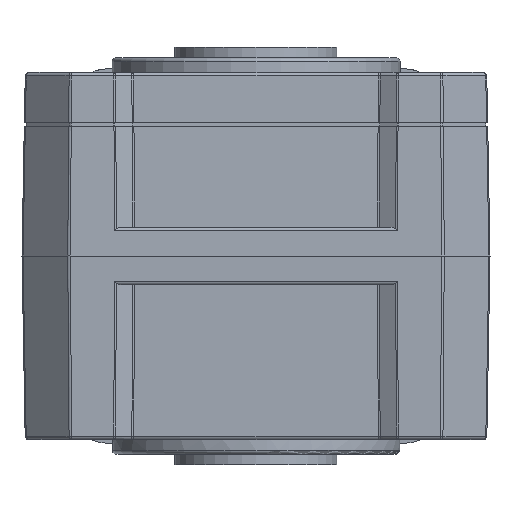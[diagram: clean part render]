
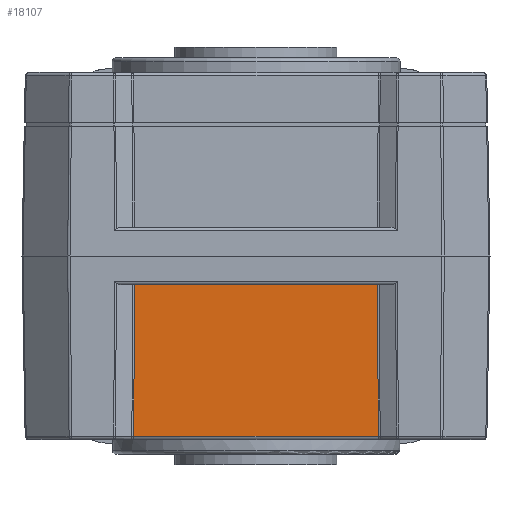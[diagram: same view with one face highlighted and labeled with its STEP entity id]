
A CAD part, left-side view. The second image highlights one B-rep face of the part: STEP entity #18107.
In plain terms, the highlighted planar face has unit normal (-1, 0, -0.018).
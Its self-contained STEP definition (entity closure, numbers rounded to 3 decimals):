
#3810 = AXIS2_PLACEMENT_3D ( 'NONE', #9549, #9550, #9551 ) ;
#5864 = FACE_OUTER_BOUND ( 'NONE', #18685, .T. ) ;
#6097 = LINE ( 'NONE', #10744, #6108 ) ;
#6104 = LINE ( 'NONE', #10748, #6106 ) ;
#6106 = VECTOR ( 'NONE', #10750, 1000. ) ;
#6107 = LINE ( 'NONE', #10752, #6110 ) ;
#6108 = VECTOR ( 'NONE', #10751, 1000. ) ;
#6109 = LINE ( 'NONE', #10754, #6112 ) ;
#6110 = VECTOR ( 'NONE', #10753, 1000. ) ;
#6112 = VECTOR ( 'NONE', #10755, 1000. ) ;
#9547 = PLANE ( 'NONE',  #3810 ) ;
#9549 = CARTESIAN_POINT ( 'NONE',  ( -62., -34., 0. ) ) ;
#9550 = DIRECTION ( 'NONE',  ( -1., 0., -0.017 ) ) ;
#9551 = DIRECTION ( 'NONE',  ( -0.017, 0., 1. ) ) ;
#9999 = CARTESIAN_POINT ( 'NONE',  ( -61.127, -33.965, -50.017 ) ) ;
#10010 = CARTESIAN_POINT ( 'NONE',  ( -61.127, 33.965, -50.017 ) ) ;
#10018 = CARTESIAN_POINT ( 'NONE',  ( -61.86, -33.762, -8. ) ) ;
#10019 = CARTESIAN_POINT ( 'NONE',  ( -61.86, 33.762, -8. ) ) ;
#10744 = CARTESIAN_POINT ( 'NONE',  ( -61.86, -33.762, -8.001 ) ) ;
#10748 = CARTESIAN_POINT ( 'NONE',  ( -61.127, -34.247, -50.017 ) ) ;
#10750 = DIRECTION ( 'NONE',  ( 0., -1., 0. ) ) ;
#10751 = DIRECTION ( 'NONE',  ( -0.017, 0.005, 1. ) ) ;
#10752 = CARTESIAN_POINT ( 'NONE',  ( -61.86, -34., -8. ) ) ;
#10753 = DIRECTION ( 'NONE',  ( 0., 1., 0. ) ) ;
#10754 = CARTESIAN_POINT ( 'NONE',  ( -61.127, 33.965, -50.019 ) ) ;
#10755 = DIRECTION ( 'NONE',  ( 0.017, 0.005, -1. ) ) ;
#18107 = ADVANCED_FACE ( 'NONE', ( #5864 ), #9547, .T. ) ;
#18386 = VERTEX_POINT ( 'NONE', #9999 ) ;
#18397 = VERTEX_POINT ( 'NONE', #10010 ) ;
#18405 = VERTEX_POINT ( 'NONE', #10018 ) ;
#18406 = VERTEX_POINT ( 'NONE', #10019 ) ;
#18685 = EDGE_LOOP ( 'NONE', ( #21006, #21009, #21011, #21013 ) ) ;
#19468 = EDGE_CURVE ( 'NONE', #18397, #18386, #6104, .T. ) ;
#19469 = EDGE_CURVE ( 'NONE', #18386, #18405, #6097, .T. ) ;
#19470 = EDGE_CURVE ( 'NONE', #18405, #18406, #6107, .T. ) ;
#19471 = EDGE_CURVE ( 'NONE', #18406, #18397, #6109, .T. ) ;
#21006 = ORIENTED_EDGE ( 'NONE', *, *, #19468, .T. ) ;
#21009 = ORIENTED_EDGE ( 'NONE', *, *, #19469, .T. ) ;
#21011 = ORIENTED_EDGE ( 'NONE', *, *, #19470, .T. ) ;
#21013 = ORIENTED_EDGE ( 'NONE', *, *, #19471, .T. ) ;
